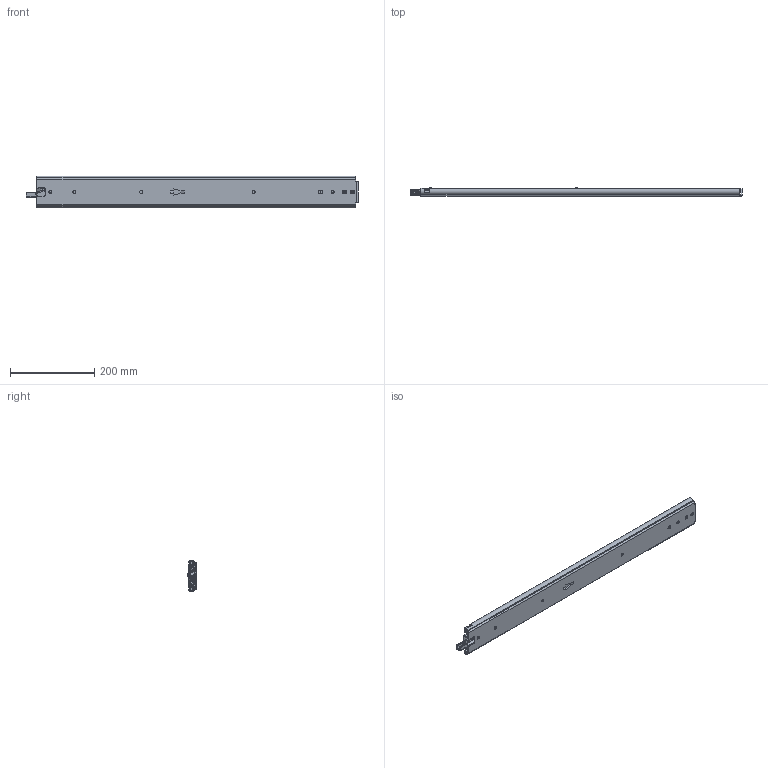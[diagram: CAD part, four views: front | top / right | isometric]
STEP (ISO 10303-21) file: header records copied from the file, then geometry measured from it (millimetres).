
FILE_DESCRIPTION((''),'2;1');
FILE_NAME('DG-76-3S-30ZUO_ASM','2023-05-10T',('jishu015'),(''),'PRO/ENGINEER BY PARAMETRIC TECHNOLOGY CORPORATION, 2010280','PRO/ENGINEER BY PARAMETRIC TECHNOLOGY CORPORATION, 2010280','');
FILE_SCHEMA(('CONFIG_CONTROL_DESIGN'));
Products named in the file (29): KP-76-04WAIKE-1816_____; 1076-WAIKEZIDANJIAO16_____; WAIK16______ASM; 1076XIAOZHUTIAO-22516_____; 16_____; 1076XIAOZHUTIAO-17516______ASM; KP-76-04ZHONGGUI1816_____; 76CHANGGUIZHONGGUIJIAO16_____; 3X6WODIN16_____; ZHONGGUIBAIKOU16_____; PJ-76-30____; PJ-76-03____; 76-XIAOZHUJIA-11____; GANGZHU-XIAO____; ZHUJIA-XIAO_____ASM; ZHONGGUI6______ASM; KP-76-04NEIGUI1816_____; PJ-76-31____; DAOGPIAN16_____; 1053-3SBANJ01____; JIAO-11____; 76XINSUOKOU____; PJ-338____; PJ-356____; PJ-357____; PJ-336____; M4X4____; NEIGUI16______ASM; DG-76-3S-30ZUO_ASM
Assembly tree (67 placements, depth 4):
  DG-76-3S-30ZUO_ASM
    WAIK16______ASM
      KP-76-04WAIKE-1816_____
      1076-WAIKEZIDANJIAO16_____  x2
    1076XIAOZHUTIAO-17516______ASM  x2
      1076XIAOZHUTIAO-22516_____
      16_____
    ZHONGGUI6______ASM
      KP-76-04ZHONGGUI1816_____
      76CHANGGUIZHONGGUIJIAO16_____
      3X6WODIN16_____
      ZHONGGUIBAIKOU16_____
      PJ-76-30____
      PJ-76-03____
      ZHUJIA-XIAO_____ASM
        76-XIAOZHUJIA-11____
        GANGZHU-XIAO____  x26
    NEIGUI16______ASM
      KP-76-04NEIGUI1816_____
      PJ-76-31____
      DAOGPIAN16_____
      1053-3SBANJ01____
      JIAO-11____
      76XINSUOKOU____
      PJ-338____
      PJ-356____
      PJ-357____
      PJ-336____
      M4X4____
Bounding box: 787.92 x 20.7 x 75.3 mm (x, y, z)
Volume: 500618.4 mm3; surface area: 482121.1 mm2
Topology: 76 solids, 76 shells, 2011 faces, 6032 edges, 3832 vertices
Faces by surface type: plane 1035, cylinder 738, sphere 111, bspline 60, cone 28, extrusion 23, torus 16
Entity records: 66403 total; most frequent: CARTESIAN_POINT 18031, ORIENTED_EDGE 10504, DIRECTION 9639, EDGE_CURVE 5252, VERTEX_POINT 3424, AXIS2_PLACEMENT_3D 3310, VECTOR 3019, LINE 2996
